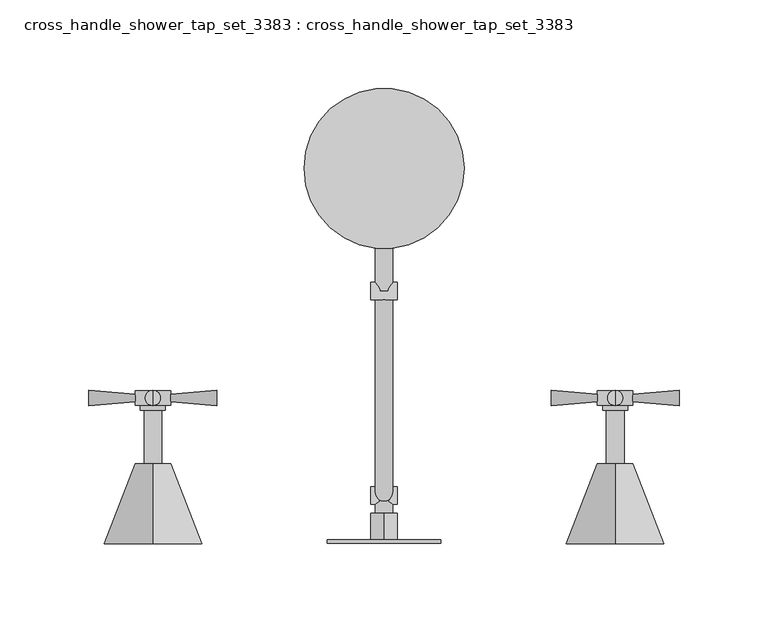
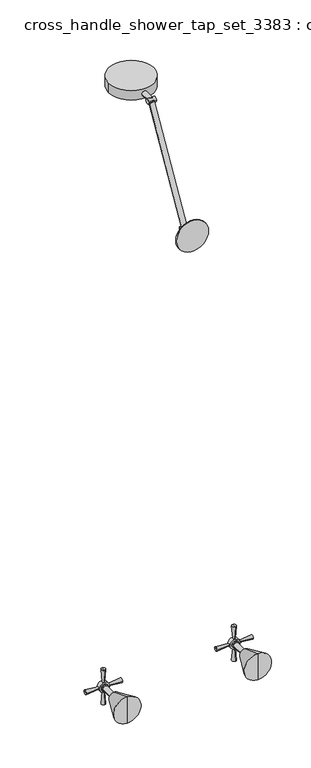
"""IFC4 building model written with IfcOpenShell, lengths in millimetres: flow terminal geometry, cross_handle_shower_tap_set_3383 : cross_handle_shower_tap_set_3383."""

from ifc_helpers import new_model, si_unit, point, frame, frame_2d, origin, place, context, project, spatial, polyline, circle_curve, trimmed, segment, composite_curve, outline, extrude, source, transform, mapped, element, save
from ifc_brep_helpers import plane_surface, revolved_surface, advanced_brep


def cross_handle_shower_tap_set_3383_cross_handle_shower_tap_set_b0131e49(model_context):
    return source(origin(), model_context, "Body", "SolidModel", [
        extrude(outline(composite_curve([segment(trimmed(circle_curve(frame_2d((0.0, 210.8891118)), 45.0), [point((-45.0, 210.8891118))], [point((45.0, 210.8891118))], False, "CARTESIAN"), True, "CONTINUOUS"), segment(trimmed(circle_curve(frame_2d((0.0, 210.8891118)), 45.0), [point((45.0, 210.8891118))], [point((-45.0, 210.8891118))], False, "CARTESIAN"), True, "CONTINUOUS")], self_intersect=False)), frame((0.0, 0.0, 1989.1892588), z_axis=(0.0, 0.0, 1.0), x_axis=(1.0, 0.0, 0.0)), (0.0, 0.0, 1.0), 20.0),
        extrude(outline(composite_curve([segment(trimmed(circle_curve(frame_2d((1999.1892588, 0.0542381)), 5.0), [point((1999.1892588, 5.0542381))], [point((1999.1892588, -4.9457619))], False, "CARTESIAN"), True, "CONTINUOUS"), segment(trimmed(circle_curve(frame_2d((1999.1892588, 0.0542381)), 5.0), [point((1999.1892588, -4.9457619))], [point((1999.1892588, 5.0542381))], False, "CARTESIAN"), True, "CONTINUOUS")], self_intersect=False)), frame((0.0, 141.9929718, 0.0), z_axis=(0.0, 1.0, 0.0), x_axis=(0.0, 0.0, 1.0)), (0.0, 0.0, 1.0), 25.0),
        extrude(outline(composite_curve([segment(trimmed(circle_curve(frame_2d((141.9929718, 1999.1736696)), 5.0), [point((146.9929718, 1999.1736696))], [point((136.9929718, 1999.1736696))], False, "CARTESIAN"), True, "CONTINUOUS"), segment(trimmed(circle_curve(frame_2d((141.9929718, 1999.1736696)), 5.0), [point((136.9929718, 1999.1736696))], [point((146.9929718, 1999.1736696))], False, "CARTESIAN"), True, "CONTINUOUS")], self_intersect=False)), frame((-7.5, 0.0, 0.0), z_axis=(1.0, 0.0, 0.0), x_axis=(0.0, 1.0, 0.0)), (0.0, 0.0, 1.0), 15.0),
        extrude(outline(composite_curve([segment(trimmed(circle_curve(frame_2d((-130.0, 198.8545815)), 5.0), [point((-125.0, 198.8545815))], [point((-135.0, 198.8545815))], False, "CARTESIAN"), True, "CONTINUOUS"), segment(trimmed(circle_curve(frame_2d((-130.0, 198.8545815)), 5.0), [point((-135.0, 198.8545815))], [point((-125.0, 198.8545815))], False, "CARTESIAN"), True, "CONTINUOUS")], self_intersect=False)), frame((130.0, -145.45816, 1899.0442247), z_axis=(0.0, 0.5000000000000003, 0.8660254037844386), x_axis=(1.0, 0.0, 0.0)), (0.0, 0.0, 1.0), 230.0),
        extrude(outline(composite_curve([segment(trimmed(circle_curve(frame_2d((27.0, 1800.0)), 5.0), [point((32.0, 1800.0))], [point((22.0, 1800.0))], False, "CARTESIAN"), True, "CONTINUOUS"), segment(trimmed(circle_curve(frame_2d((27.0, 1800.0)), 5.0), [point((22.0, 1800.0))], [point((32.0, 1800.0))], False, "CARTESIAN"), True, "CONTINUOUS")], self_intersect=False)), frame((-7.5, 0.0, 0.0), z_axis=(1.0, 0.0, 0.0), x_axis=(0.0, 1.0, 0.0)), (0.0, 0.0, 1.0), 15.0),
        extrude(outline(composite_curve([segment(trimmed(circle_curve(frame_2d((1800.0, 0.0)), 5.0), [point((1800.0, 5.0))], [point((1800.0, -5.0))], False, "CARTESIAN"), True, "CONTINUOUS"), segment(trimmed(circle_curve(frame_2d((1800.0, 0.0)), 5.0), [point((1800.0, -5.0))], [point((1800.0, 5.0))], False, "CARTESIAN"), True, "CONTINUOUS")], self_intersect=False)), frame((0.0, 17.0, 0.0), z_axis=(0.0, 1.0, 0.0), x_axis=(0.0, 0.0, 1.0)), (0.0, 0.0, 1.0), 10.0),
        extrude(outline(polyline([(1791.339746, 0.0), (1795.669873, 7.5), (1804.330127, 7.5), (1808.660254, 0.0), (1804.330127, -7.5), (1795.669873, -7.5), (1791.339746, 0.0)])), frame((0.0, 2.0, 0.0), z_axis=(0.0, 1.0, 0.0), x_axis=(0.0, 0.0, 1.0)), (0.0, 0.0, 1.0), 15.0),
        extrude(outline(composite_curve([segment(trimmed(circle_curve(frame_2d((1800.0, 0.0)), 32.0), [point((1800.0, 32.0))], [point((1800.0, -32.0))], False, "CARTESIAN"), True, "CONTINUOUS"), segment(trimmed(circle_curve(frame_2d((1800.0, 0.0)), 32.0), [point((1800.0, -32.0))], [point((1800.0, 32.0))], False, "CARTESIAN"), True, "CONTINUOUS")], self_intersect=False)), frame((0.0, 0.0, 0.0), z_axis=(0.0, 1.0, 0.0), x_axis=(0.0, 0.0, 1.0)), (0.0, 0.0, 1.0), 2.0),
        advanced_brep(
        [(-120.0, 82.0, 850.0), (-120.0, 84.0, 850.0), (-120.0, 80.0, 850.0), (-94.0, 77.7252947, 850.0), (-94.0, 86.2747053, 850.0), (-94.0, 82.0, 850.0)],
        [
            (0, 1),
            (1, 2, circle_curve(frame((-120.0, 82.0, 850.0), z_axis=(-1.0, 0.0, 0.0), x_axis=(0.0, 1.0, 0.0)), 2.0)),
            (2, 0),
            (2, 1, circle_curve(frame((-120.0, 82.0, 850.0), z_axis=(-1.0, 0.0, 0.0), x_axis=(0.0, 1.0, 0.0)), 2.0)),
            (3, 4, circle_curve(frame((-94.0, 82.0, 850.0), z_axis=(1.0, 0.0, 0.0), x_axis=(0.0, 1.0, 0.0)), 4.2747053)),
            (4, 5),
            (5, 3),
            (4, 3, circle_curve(frame((-94.0, 82.0, 850.0), z_axis=(1.0, 0.0, 0.0), x_axis=(0.0, 1.0, 0.0)), 4.2747053)),
            (1, 4),
            (3, 2),
        ],
        [
            plane_surface(frame((-120.0, 82.0, 850.0), z_axis=(-1.0, 0.0, 0.0), x_axis=(0.0, 1.0, 0.0))),
            plane_surface(frame((-94.0, 82.0, 850.0), z_axis=(1.0, 0.0, 0.0), x_axis=(0.0, 1.0, 0.0))),
            revolved_surface(polyline([(-94.0, 86.2747053, 850.0), (-120.0, 84.0, 850.0)]), (-120.0, 82.0, 850.0), (-1.0, 0.0, 0.0)),
        ],
        [
            (0, [[1, 2, 3]]),
            (0, [[-3, 4, -1]]),
            (1, [[5, 6, 7]]),
            (1, [[8, -7, -6]]),
            (2, [[-2, 9, -5, 10]]),
            (2, [[-4, -10, -8, -9]]),
        ],
    ),
        advanced_brep(
        [(-166.0, 77.7252947, 850.0), (-166.0, 86.2747053, 850.0), (-140.0, 84.0, 850.0), (-140.0, 80.0, 850.0), (-166.0, 82.0, 850.0), (-140.0, 82.0, 850.0)],
        [
            (0, 1, circle_curve(frame((-166.0, 82.0, 850.0), z_axis=(1.0, 0.0, 0.0), x_axis=(0.0, 1.0, 0.0)), 4.2747053)),
            (1, 2),
            (2, 3, circle_curve(frame((-140.0, 82.0, 850.0), z_axis=(-1.0, 0.0, 0.0), x_axis=(0.0, 1.0, 0.0)), 2.0)),
            (3, 0),
            (1, 0, circle_curve(frame((-166.0, 82.0, 850.0), z_axis=(1.0, 0.0, 0.0), x_axis=(0.0, 1.0, 0.0)), 4.2747053)),
            (3, 2, circle_curve(frame((-140.0, 82.0, 850.0), z_axis=(-1.0, 0.0, 0.0), x_axis=(0.0, 1.0, 0.0)), 2.0)),
            (4, 1),
            (0, 4),
            (2, 5),
            (5, 3),
        ],
        [
            revolved_surface(polyline([(-140.0, 84.0, 850.0), (-166.0, 86.2747053, 850.0)]), (-140.0, 82.0, 850.0), (-1.0, 0.0, 0.0)),
            plane_surface(frame((-166.0, 82.0, 850.0), z_axis=(-1.0, 0.0, 0.0), x_axis=(0.0, 1.0, 0.0))),
            plane_surface(frame((-140.0, 82.0, 850.0), z_axis=(1.0, 0.0, 0.0), x_axis=(0.0, 1.0, 0.0))),
        ],
        [
            (0, [[1, 2, 3, 4]]),
            (0, [[5, -4, 6, -2]]),
            (1, [[7, -1, 8]]),
            (1, [[-8, -5, -7]]),
            (2, [[-3, 9, 10]]),
            (2, [[-6, -10, -9]]),
        ],
    ),
        advanced_brep(
        [(-130.0, 82.0, 840.0), (-130.0, 84.0, 840.0), (-130.0, 80.0, 840.0), (-130.0, 77.7252947, 814.0), (-130.0, 86.2747053, 814.0), (-130.0, 82.0, 814.0)],
        [
            (0, 1),
            (1, 2, circle_curve(frame((-130.0, 82.0, 840.0), z_axis=(0.0, 0.0, 1.0), x_axis=(0.0, 1.0, 0.0)), 2.0)),
            (2, 0),
            (2, 1, circle_curve(frame((-130.0, 82.0, 840.0), z_axis=(0.0, 0.0, 1.0), x_axis=(0.0, 1.0, 0.0)), 2.0)),
            (3, 4, circle_curve(frame((-130.0, 82.0, 814.0), z_axis=(0.0, 0.0, -1.0), x_axis=(0.0, 1.0, 0.0)), 4.2747053)),
            (4, 5),
            (5, 3),
            (4, 3, circle_curve(frame((-130.0, 82.0, 814.0), z_axis=(0.0, 0.0, -1.0), x_axis=(0.0, 1.0, 0.0)), 4.2747053)),
            (1, 4),
            (3, 2),
        ],
        [
            plane_surface(frame((-130.0, 82.0, 840.0), z_axis=(0.0, 0.0, 1.0), x_axis=(0.0, 1.0, 0.0))),
            plane_surface(frame((-130.0, 82.0, 814.0), z_axis=(0.0, 0.0, -1.0), x_axis=(0.0, 1.0, 0.0))),
            revolved_surface(polyline([(-130.0, 86.2747053, 814.0), (-130.0, 84.0, 840.0)]), (-130.0, 82.0, 840.0), (0.0, 0.0, 1.0)),
        ],
        [
            (0, [[1, 2, 3]]),
            (0, [[-3, 4, -1]]),
            (1, [[5, 6, 7]]),
            (1, [[8, -7, -6]]),
            (2, [[-2, 9, -5, 10]]),
            (2, [[-4, -10, -8, -9]]),
        ],
    ),
        advanced_brep(
        [(-130.0, 77.7252947, 886.0), (-130.0, 86.2747053, 886.0), (-130.0, 84.0, 860.0), (-130.0, 80.0, 860.0), (-130.0, 82.0, 886.0), (-130.0, 82.0, 860.0)],
        [
            (0, 1, circle_curve(frame((-130.0, 82.0, 886.0), z_axis=(0.0, 0.0, -1.0), x_axis=(0.0, 1.0, 0.0)), 4.2747053)),
            (1, 2),
            (2, 3, circle_curve(frame((-130.0, 82.0, 860.0), z_axis=(0.0, 0.0, 1.0), x_axis=(0.0, 1.0, 0.0)), 2.0)),
            (3, 0),
            (1, 0, circle_curve(frame((-130.0, 82.0, 886.0), z_axis=(0.0, 0.0, -1.0), x_axis=(0.0, 1.0, 0.0)), 4.2747053)),
            (3, 2, circle_curve(frame((-130.0, 82.0, 860.0), z_axis=(0.0, 0.0, 1.0), x_axis=(0.0, 1.0, 0.0)), 2.0)),
            (4, 1),
            (0, 4),
            (2, 5),
            (5, 3),
        ],
        [
            revolved_surface(polyline([(-130.0, 84.0, 860.0), (-130.0, 86.2747053, 886.0)]), (-130.0, 82.0, 860.0), (0.0, 0.0, 1.0)),
            plane_surface(frame((-130.0, 82.0, 886.0), z_axis=(0.0, 0.0, 1.0), x_axis=(0.0, 1.0, 0.0))),
            plane_surface(frame((-130.0, 82.0, 860.0), z_axis=(0.0, 0.0, -1.0), x_axis=(0.0, 1.0, 0.0))),
        ],
        [
            (0, [[1, 2, 3, 4]]),
            (0, [[5, -4, 6, -2]]),
            (1, [[7, -1, 8]]),
            (1, [[-8, -5, -7]]),
            (2, [[-3, 9, 10]]),
            (2, [[-6, -10, -9]]),
        ],
    ),
        extrude(outline(composite_curve([segment(trimmed(circle_curve(frame_2d((850.0, -130.0)), 10.0), [point((850.0, -120.0))], [point((850.0, -140.0))], False, "CARTESIAN"), True, "CONTINUOUS"), segment(trimmed(circle_curve(frame_2d((850.0, -130.0)), 10.0), [point((850.0, -140.0))], [point((850.0, -120.0))], False, "CARTESIAN"), True, "CONTINUOUS")], self_intersect=False)), frame((0.0, 78.0, 0.0), z_axis=(0.0, 1.0, 0.0), x_axis=(0.0, 0.0, 1.0)), (0.0, 0.0, 1.0), 8.0),
        extrude(outline(composite_curve([segment(trimmed(circle_curve(frame_2d((850.0, -130.0)), 7.0), [point((850.0, -123.0))], [point((850.0, -137.0))], False, "CARTESIAN"), True, "CONTINUOUS"), segment(trimmed(circle_curve(frame_2d((850.0, -130.0)), 7.0), [point((850.0, -137.0))], [point((850.0, -123.0))], False, "CARTESIAN"), True, "CONTINUOUS")], self_intersect=False)), frame((0.0, 75.0, 0.0), z_axis=(0.0, 1.0, 0.0), x_axis=(0.0, 0.0, 1.0)), (0.0, 0.0, 1.0), 3.0),
        extrude(outline(composite_curve([segment(trimmed(circle_curve(frame_2d((850.0, -130.0)), 5.0), [point((850.0, -125.0))], [point((850.0, -135.0))], False, "CARTESIAN"), True, "CONTINUOUS"), segment(trimmed(circle_curve(frame_2d((850.0, -130.0)), 5.0), [point((850.0, -135.0))], [point((850.0, -125.0))], False, "CARTESIAN"), True, "CONTINUOUS")], self_intersect=False)), frame((0.0, 45.0, 0.0), z_axis=(0.0, 1.0, 0.0), x_axis=(0.0, 0.0, 1.0)), (0.0, 0.0, 1.0), 30.0),
        advanced_brep(
        [(-130.0, 45.0, 850.0), (-130.0, 45.0, 840.0), (-130.0, 45.0, 860.0), (-130.0, 0.0, 877.5), (-130.0, 0.0, 822.5), (-130.0, 0.0, 850.0)],
        [
            (0, 1),
            (1, 2, circle_curve(frame((-130.0, 45.0, 850.0), z_axis=(0.0, 1.0, 0.0), x_axis=(0.0, 0.0, -1.0)), 10.0)),
            (2, 0),
            (2, 1, circle_curve(frame((-130.0, 45.0, 850.0), z_axis=(0.0, 1.0, 0.0), x_axis=(0.0, 0.0, -1.0)), 10.0)),
            (3, 4, circle_curve(frame((-130.0, 0.0, 850.0), z_axis=(0.0, -1.0, 0.0), x_axis=(0.0, 0.0, -1.0)), 27.5)),
            (4, 5),
            (5, 3),
            (4, 3, circle_curve(frame((-130.0, 0.0, 850.0), z_axis=(0.0, -1.0, 0.0), x_axis=(0.0, 0.0, -1.0)), 27.5)),
            (1, 4),
            (3, 2),
        ],
        [
            plane_surface(frame((-130.0, 45.0, 850.0), z_axis=(0.0, 1.0, 0.0), x_axis=(0.0, 0.0, -1.0))),
            plane_surface(frame((-130.0, 0.0, 850.0), z_axis=(0.0, -1.0, 0.0), x_axis=(0.0, 0.0, -1.0))),
            revolved_surface(polyline([(-130.0, 0.0, 822.5), (-130.0, 45.0, 840.0)]), (-130.0, 0.0, 850.0), (0.0, 1.0, 0.0)),
        ],
        [
            (0, [[1, 2, 3]]),
            (0, [[-3, 4, -1]]),
            (1, [[5, 6, 7]]),
            (1, [[8, -7, -6]]),
            (2, [[-2, 9, -5, 10]]),
            (2, [[-4, -10, -8, -9]]),
        ],
    ),
        advanced_brep(
        [(140.0, 82.0, 850.0), (140.0, 84.0, 850.0), (140.0, 80.0, 850.0), (166.0, 77.7252947, 850.0), (166.0, 86.2747053, 850.0), (166.0, 82.0, 850.0)],
        [
            (0, 1),
            (1, 2, circle_curve(frame((140.0, 82.0, 850.0), z_axis=(-1.0, 0.0, 0.0), x_axis=(0.0, 1.0, 0.0)), 2.0)),
            (2, 0),
            (2, 1, circle_curve(frame((140.0, 82.0, 850.0), z_axis=(-1.0, 0.0, 0.0), x_axis=(0.0, 1.0, 0.0)), 2.0)),
            (3, 4, circle_curve(frame((166.0, 82.0, 850.0), z_axis=(1.0, 0.0, 0.0), x_axis=(0.0, 1.0, 0.0)), 4.2747053)),
            (4, 5),
            (5, 3),
            (4, 3, circle_curve(frame((166.0, 82.0, 850.0), z_axis=(1.0, 0.0, 0.0), x_axis=(0.0, 1.0, 0.0)), 4.2747053)),
            (1, 4),
            (3, 2),
        ],
        [
            plane_surface(frame((140.0, 82.0, 850.0), z_axis=(-1.0, 0.0, 0.0), x_axis=(0.0, 1.0, 0.0))),
            plane_surface(frame((166.0, 82.0, 850.0), z_axis=(1.0, 0.0, 0.0), x_axis=(0.0, 1.0, 0.0))),
            revolved_surface(polyline([(166.0, 86.2747053, 850.0), (140.0, 84.0, 850.0)]), (140.0, 82.0, 850.0), (-1.0, 0.0, 0.0)),
        ],
        [
            (0, [[1, 2, 3]]),
            (0, [[-3, 4, -1]]),
            (1, [[5, 6, 7]]),
            (1, [[8, -7, -6]]),
            (2, [[-2, 9, -5, 10]]),
            (2, [[-4, -10, -8, -9]]),
        ],
    ),
        advanced_brep(
        [(94.0, 77.7252947, 850.0), (94.0, 86.2747053, 850.0), (120.0, 84.0, 850.0), (120.0, 80.0, 850.0), (94.0, 82.0, 850.0), (120.0, 82.0, 850.0)],
        [
            (0, 1, circle_curve(frame((94.0, 82.0, 850.0), z_axis=(1.0, 0.0, 0.0), x_axis=(0.0, 1.0, 0.0)), 4.2747053)),
            (1, 2),
            (2, 3, circle_curve(frame((120.0, 82.0, 850.0), z_axis=(-1.0, 0.0, 0.0), x_axis=(0.0, 1.0, 0.0)), 2.0)),
            (3, 0),
            (1, 0, circle_curve(frame((94.0, 82.0, 850.0), z_axis=(1.0, 0.0, 0.0), x_axis=(0.0, 1.0, 0.0)), 4.2747053)),
            (3, 2, circle_curve(frame((120.0, 82.0, 850.0), z_axis=(-1.0, 0.0, 0.0), x_axis=(0.0, 1.0, 0.0)), 2.0)),
            (4, 1),
            (0, 4),
            (2, 5),
            (5, 3),
        ],
        [
            revolved_surface(polyline([(120.0, 84.0, 850.0), (94.0, 86.2747053, 850.0)]), (120.0, 82.0, 850.0), (-1.0, 0.0, 0.0)),
            plane_surface(frame((94.0, 82.0, 850.0), z_axis=(-1.0, 0.0, 0.0), x_axis=(0.0, 1.0, 0.0))),
            plane_surface(frame((120.0, 82.0, 850.0), z_axis=(1.0, 0.0, 0.0), x_axis=(0.0, 1.0, 0.0))),
        ],
        [
            (0, [[1, 2, 3, 4]]),
            (0, [[5, -4, 6, -2]]),
            (1, [[7, -1, 8]]),
            (1, [[-8, -5, -7]]),
            (2, [[-3, 9, 10]]),
            (2, [[-6, -10, -9]]),
        ],
    ),
        advanced_brep(
        [(130.0, 82.0, 840.0), (130.0, 84.0, 840.0), (130.0, 80.0, 840.0), (130.0, 77.7252947, 814.0), (130.0, 86.2747053, 814.0), (130.0, 82.0, 814.0)],
        [
            (0, 1),
            (1, 2, circle_curve(frame((130.0, 82.0, 840.0), z_axis=(0.0, 0.0, 1.0), x_axis=(0.0, 1.0, 0.0)), 2.0)),
            (2, 0),
            (2, 1, circle_curve(frame((130.0, 82.0, 840.0), z_axis=(0.0, 0.0, 1.0), x_axis=(0.0, 1.0, 0.0)), 2.0)),
            (3, 4, circle_curve(frame((130.0, 82.0, 814.0), z_axis=(0.0, 0.0, -1.0), x_axis=(0.0, 1.0, 0.0)), 4.2747053)),
            (4, 5),
            (5, 3),
            (4, 3, circle_curve(frame((130.0, 82.0, 814.0), z_axis=(0.0, 0.0, -1.0), x_axis=(0.0, 1.0, 0.0)), 4.2747053)),
            (1, 4),
            (3, 2),
        ],
        [
            plane_surface(frame((130.0, 82.0, 840.0), z_axis=(0.0, 0.0, 1.0), x_axis=(0.0, 1.0, 0.0))),
            plane_surface(frame((130.0, 82.0, 814.0), z_axis=(0.0, 0.0, -1.0), x_axis=(0.0, 1.0, 0.0))),
            revolved_surface(polyline([(130.0, 86.2747053, 814.0), (130.0, 84.0, 840.0)]), (130.0, 82.0, 840.0), (0.0, 0.0, 1.0)),
        ],
        [
            (0, [[1, 2, 3]]),
            (0, [[-3, 4, -1]]),
            (1, [[5, 6, 7]]),
            (1, [[8, -7, -6]]),
            (2, [[-2, 9, -5, 10]]),
            (2, [[-4, -10, -8, -9]]),
        ],
    ),
        advanced_brep(
        [(130.0, 77.7252947, 886.0), (130.0, 86.2747053, 886.0), (130.0, 84.0, 860.0), (130.0, 80.0, 860.0), (130.0, 82.0, 886.0), (130.0, 82.0, 860.0)],
        [
            (0, 1, circle_curve(frame((130.0, 82.0, 886.0), z_axis=(0.0, 0.0, -1.0), x_axis=(0.0, 1.0, 0.0)), 4.2747053)),
            (1, 2),
            (2, 3, circle_curve(frame((130.0, 82.0, 860.0), z_axis=(0.0, 0.0, 1.0), x_axis=(0.0, 1.0, 0.0)), 2.0)),
            (3, 0),
            (1, 0, circle_curve(frame((130.0, 82.0, 886.0), z_axis=(0.0, 0.0, -1.0), x_axis=(0.0, 1.0, 0.0)), 4.2747053)),
            (3, 2, circle_curve(frame((130.0, 82.0, 860.0), z_axis=(0.0, 0.0, 1.0), x_axis=(0.0, 1.0, 0.0)), 2.0)),
            (4, 1),
            (0, 4),
            (2, 5),
            (5, 3),
        ],
        [
            revolved_surface(polyline([(130.0, 84.0, 860.0), (130.0, 86.2747053, 886.0)]), (130.0, 82.0, 860.0), (0.0, 0.0, 1.0)),
            plane_surface(frame((130.0, 82.0, 886.0), z_axis=(0.0, 0.0, 1.0), x_axis=(0.0, 1.0, 0.0))),
            plane_surface(frame((130.0, 82.0, 860.0), z_axis=(0.0, 0.0, -1.0), x_axis=(0.0, 1.0, 0.0))),
        ],
        [
            (0, [[1, 2, 3, 4]]),
            (0, [[5, -4, 6, -2]]),
            (1, [[7, -1, 8]]),
            (1, [[-8, -5, -7]]),
            (2, [[-3, 9, 10]]),
            (2, [[-6, -10, -9]]),
        ],
    ),
        extrude(outline(composite_curve([segment(trimmed(circle_curve(frame_2d((850.0, 130.0)), 10.0), [point((850.0, 140.0))], [point((850.0, 120.0))], False, "CARTESIAN"), True, "CONTINUOUS"), segment(trimmed(circle_curve(frame_2d((850.0, 130.0)), 10.0), [point((850.0, 120.0))], [point((850.0, 140.0))], False, "CARTESIAN"), True, "CONTINUOUS")], self_intersect=False)), frame((0.0, 78.0, 0.0), z_axis=(0.0, 1.0, 0.0), x_axis=(0.0, 0.0, 1.0)), (0.0, 0.0, 1.0), 8.0),
        extrude(outline(composite_curve([segment(trimmed(circle_curve(frame_2d((850.0, 130.0)), 7.0), [point((850.0, 137.0))], [point((850.0, 123.0))], False, "CARTESIAN"), True, "CONTINUOUS"), segment(trimmed(circle_curve(frame_2d((850.0, 130.0)), 7.0), [point((850.0, 123.0))], [point((850.0, 137.0))], False, "CARTESIAN"), True, "CONTINUOUS")], self_intersect=False)), frame((0.0, 75.0, 0.0), z_axis=(0.0, 1.0, 0.0), x_axis=(0.0, 0.0, 1.0)), (0.0, 0.0, 1.0), 3.0),
        extrude(outline(composite_curve([segment(trimmed(circle_curve(frame_2d((850.0, 130.0)), 5.0), [point((850.0, 135.0))], [point((850.0, 125.0))], False, "CARTESIAN"), True, "CONTINUOUS"), segment(trimmed(circle_curve(frame_2d((850.0, 130.0)), 5.0), [point((850.0, 125.0))], [point((850.0, 135.0))], False, "CARTESIAN"), True, "CONTINUOUS")], self_intersect=False)), frame((0.0, 45.0, 0.0), z_axis=(0.0, 1.0, 0.0), x_axis=(0.0, 0.0, 1.0)), (0.0, 0.0, 1.0), 30.0),
        advanced_brep(
        [(130.0, 45.0, 850.0), (130.0, 45.0, 840.0), (130.0, 45.0, 860.0), (130.0, 0.0, 877.5), (130.0, 0.0, 822.5), (130.0, 0.0, 850.0)],
        [
            (0, 1),
            (1, 2, circle_curve(frame((130.0, 45.0, 850.0), z_axis=(0.0, 1.0, 0.0), x_axis=(0.0, 0.0, -1.0)), 10.0)),
            (2, 0),
            (2, 1, circle_curve(frame((130.0, 45.0, 850.0), z_axis=(0.0, 1.0, 0.0), x_axis=(0.0, 0.0, -1.0)), 10.0)),
            (3, 4, circle_curve(frame((130.0, 0.0, 850.0), z_axis=(0.0, -1.0, 0.0), x_axis=(0.0, 0.0, -1.0)), 27.5)),
            (4, 5),
            (5, 3),
            (4, 3, circle_curve(frame((130.0, 0.0, 850.0), z_axis=(0.0, -1.0, 0.0), x_axis=(0.0, 0.0, -1.0)), 27.5)),
            (1, 4),
            (3, 2),
        ],
        [
            plane_surface(frame((130.0, 45.0, 850.0), z_axis=(0.0, 1.0, 0.0), x_axis=(0.0, 0.0, -1.0))),
            plane_surface(frame((130.0, 0.0, 850.0), z_axis=(0.0, -1.0, 0.0), x_axis=(0.0, 0.0, -1.0))),
            revolved_surface(polyline([(130.0, 0.0, 822.5), (130.0, 45.0, 840.0)]), (130.0, 0.0, 850.0), (0.0, 1.0, 0.0)),
        ],
        [
            (0, [[1, 2, 3]]),
            (0, [[-3, 4, -1]]),
            (1, [[5, 6, 7]]),
            (1, [[8, -7, -6]]),
            (2, [[-2, 9, -5, 10]]),
            (2, [[-4, -10, -8, -9]]),
        ],
    ),
    ])


if __name__ == "__main__":
    model = new_model("IFC4")
    model_context = context("Model", 3, world=origin())
    ifc_project = project(units=[si_unit("LENGTHUNIT", "METRE", prefix="MILLI")], contexts=[model_context])
    site = spatial("IfcSite", under=ifc_project)
    building = spatial("IfcBuilding", under=site)
    placement = place(None, origin())
    cross_handle_shower_tap_set_3383_cross_handle_shower_tap_set_shape = cross_handle_shower_tap_set_3383_cross_handle_shower_tap_set_b0131e49(model_context)
    element("IfcFlowTerminal", 1, ObjectType="cross_handle_shower_tap_set_3383 : cross_handle_shower_tap_set_3383", at=placement, inside=building, context=model_context, shape_type="MappedRepresentation", body=[
        mapped(cross_handle_shower_tap_set_3383_cross_handle_shower_tap_set_shape, transform((0.0, 0.0, 0.0), x_axis=(1.0, 0.0, 0.0), y_axis=(0.0, 1.0, 0.0), z_axis=(0.0, 0.0, 1.0))),
    ])
    save(model, "model.ifc")
